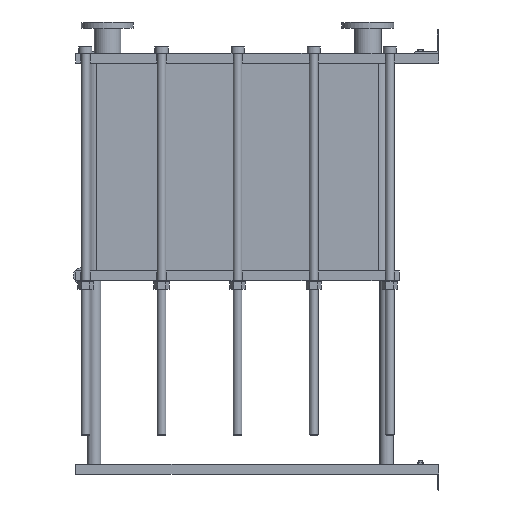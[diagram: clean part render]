
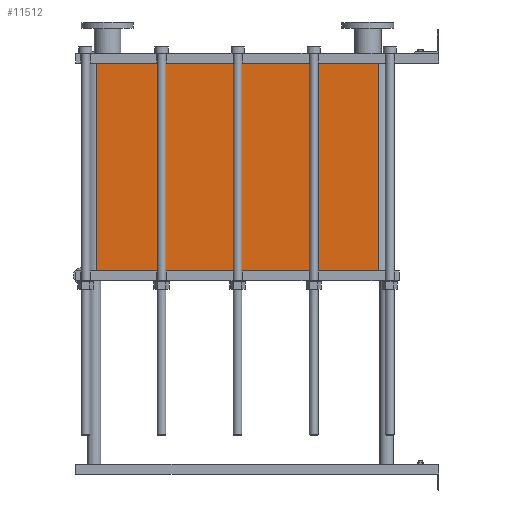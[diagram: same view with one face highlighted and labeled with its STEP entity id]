
A CAD part, left-side view. The second image highlights one B-rep face of the part: STEP entity #11512.
In plain terms, the highlighted planar face has unit normal (-1, 0, 0).
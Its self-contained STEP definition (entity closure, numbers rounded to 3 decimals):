
#1129=LINE('',#23232,#2102);
#1130=LINE('',#23236,#2103);
#1131=LINE('',#23238,#2104);
#1132=LINE('',#23239,#2105);
#2102=VECTOR('',#15887,10.);
#2103=VECTOR('',#15892,10.);
#2104=VECTOR('',#15893,10.);
#2105=VECTOR('',#15894,10.);
#3267=FACE_OUTER_BOUND('',#4093,.T.);
#4093=EDGE_LOOP('',(#10103,#10104,#10105,#10106));
#5642=VERTEX_POINT('',#23229);
#5643=VERTEX_POINT('',#23231);
#5644=VERTEX_POINT('',#23235);
#5645=VERTEX_POINT('',#23237);
#7159=EDGE_CURVE('',#5643,#5642,#1129,.T.);
#7161=EDGE_CURVE('',#5642,#5644,#1130,.T.);
#7162=EDGE_CURVE('',#5645,#5644,#1131,.T.);
#7163=EDGE_CURVE('',#5645,#5643,#1132,.T.);
#10103=ORIENTED_EDGE('',*,*,#7161,.T.);
#10104=ORIENTED_EDGE('',*,*,#7162,.F.);
#10105=ORIENTED_EDGE('',*,*,#7163,.T.);
#10106=ORIENTED_EDGE('',*,*,#7159,.T.);
#10857=PLANE('',#12751);
#11512=ADVANCED_FACE('',(#3267),#10857,.T.);
#12751=AXIS2_PLACEMENT_3D('',#23234,#15890,#15891);
#15887=DIRECTION('',(0.,0.,-1.));
#15890=DIRECTION('center_axis',(-1.,0.,0.));
#15891=DIRECTION('ref_axis',(0.,1.,0.));
#15892=DIRECTION('',(0.,-1.,0.));
#15893=DIRECTION('',(0.,0.,-1.));
#15894=DIRECTION('',(0.,1.,0.));
#23229=CARTESIAN_POINT('',(-200.,1414.,-859.05));
#23231=CARTESIAN_POINT('',(-200.,1414.,0.));
#23232=CARTESIAN_POINT('',(-200.,1414.,0.));
#23234=CARTESIAN_POINT('Origin',(-200.,248.,0.));
#23235=CARTESIAN_POINT('',(-200.,248.,-859.05));
#23236=CARTESIAN_POINT('',(-200.,539.5,-859.05));
#23237=CARTESIAN_POINT('',(-200.,248.,0.));
#23238=CARTESIAN_POINT('',(-200.,248.,0.));
#23239=CARTESIAN_POINT('',(-200.,248.,0.));
